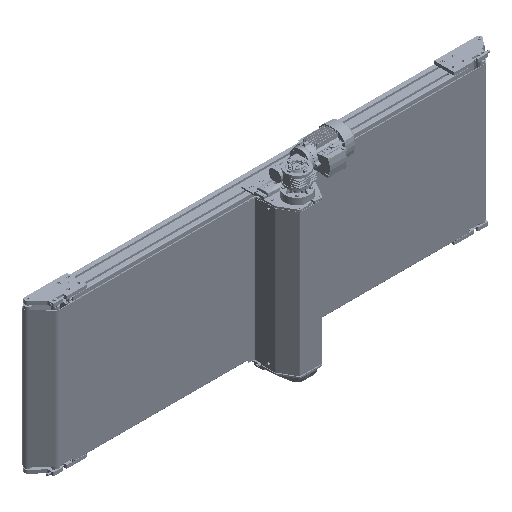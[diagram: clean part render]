
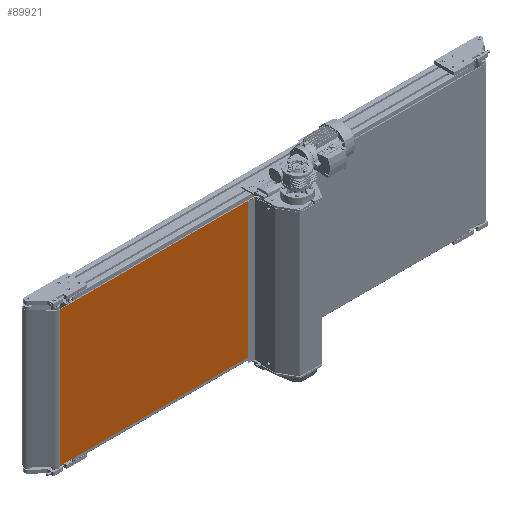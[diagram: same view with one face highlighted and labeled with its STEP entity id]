
A CAD part, isometric view. The second image highlights one B-rep face of the part: STEP entity #89921.
In plain terms, the highlighted planar face has unit normal (0, -1, 0).
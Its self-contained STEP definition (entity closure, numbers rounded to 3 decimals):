
#2992 = DIRECTION ( 'NONE',  ( 1., 0., 0. ) ) ;
#4683 = LINE ( 'NONE', #41175, #21829 ) ;
#6843 = CARTESIAN_POINT ( 'NONE',  ( -59., -49.5, 300. ) ) ;
#7858 = CARTESIAN_POINT ( 'NONE',  ( -940., -49.5, 300. ) ) ;
#9262 = ORIENTED_EDGE ( 'NONE', *, *, #101227, .T. ) ;
#14071 = EDGE_CURVE ( 'NONE', #142682, #133818, #18987, .T. ) ;
#16933 = CARTESIAN_POINT ( 'NONE',  ( -59., -49.5, -300. ) ) ;
#17055 = DIRECTION ( 'NONE',  ( 1., 0., 0. ) ) ;
#18987 = LINE ( 'NONE', #6843, #170913 ) ;
#19658 = LINE ( 'NONE', #135931, #63959 ) ;
#21829 = VECTOR ( 'NONE', #2992, 1000. ) ;
#22668 = CARTESIAN_POINT ( 'NONE',  ( -940., -49.5, 300. ) ) ;
#23427 = VERTEX_POINT ( 'NONE', #160765 ) ;
#32002 = DIRECTION ( 'NONE',  ( 0., 0., -1. ) ) ;
#35669 = DIRECTION ( 'NONE',  ( -1., 0., 0. ) ) ;
#37445 = EDGE_CURVE ( 'NONE', #23427, #142682, #19658, .T. ) ;
#38689 = ORIENTED_EDGE ( 'NONE', *, *, #14071, .F. ) ;
#41175 = CARTESIAN_POINT ( 'NONE',  ( -940., -49.5, -300. ) ) ;
#56400 = AXIS2_PLACEMENT_3D ( 'NONE', #22668, #58285, #35669 ) ;
#58285 = DIRECTION ( 'NONE',  ( 0., 1., 0. ) ) ;
#63488 = VECTOR ( 'NONE', #125877, 1000. ) ;
#63959 = VECTOR ( 'NONE', #17055, 1000. ) ;
#78686 = EDGE_CURVE ( 'NONE', #83663, #133818, #4683, .T. ) ;
#80834 = CARTESIAN_POINT ( 'NONE',  ( -59., -49.5, 300. ) ) ;
#83663 = VERTEX_POINT ( 'NONE', #167369 ) ;
#89350 = ORIENTED_EDGE ( 'NONE', *, *, #78686, .T. ) ;
#89921 = ADVANCED_FACE ( 'NONE', ( #164072 ), #99052, .F. ) ;
#99052 = PLANE ( 'NONE',  #56400 ) ;
#101227 = EDGE_CURVE ( 'NONE', #23427, #83663, #126724, .T. ) ;
#125877 = DIRECTION ( 'NONE',  ( 0., 0., -1. ) ) ;
#126724 = LINE ( 'NONE', #7858, #63488 ) ;
#133818 = VERTEX_POINT ( 'NONE', #16933 ) ;
#135931 = CARTESIAN_POINT ( 'NONE',  ( -940., -49.5, 300. ) ) ;
#142682 = VERTEX_POINT ( 'NONE', #80834 ) ;
#151562 = ORIENTED_EDGE ( 'NONE', *, *, #37445, .F. ) ;
#160765 = CARTESIAN_POINT ( 'NONE',  ( -940., -49.5, 300. ) ) ;
#164072 = FACE_OUTER_BOUND ( 'NONE', #168603, .T. ) ;
#167369 = CARTESIAN_POINT ( 'NONE',  ( -940., -49.5, -300. ) ) ;
#168603 = EDGE_LOOP ( 'NONE', ( #89350, #38689, #151562, #9262 ) ) ;
#170913 = VECTOR ( 'NONE', #32002, 1000. ) ;
